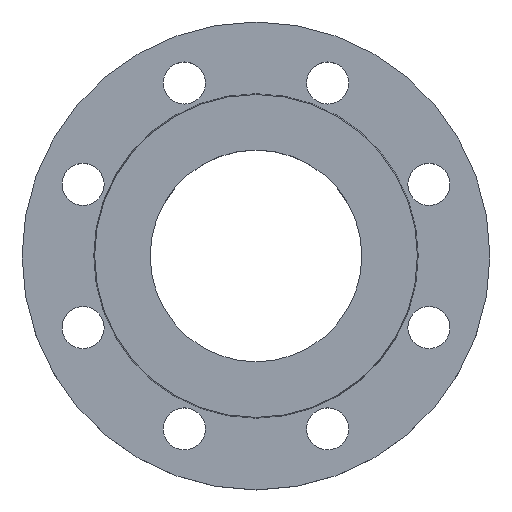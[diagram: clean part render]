
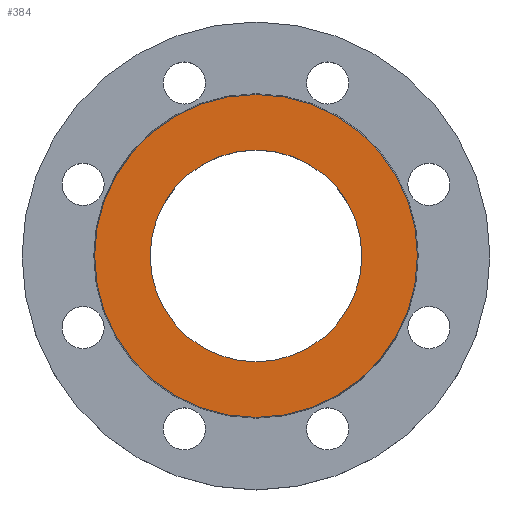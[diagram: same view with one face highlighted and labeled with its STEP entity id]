
A CAD part, top view. The second image highlights one B-rep face of the part: STEP entity #384.
In plain terms, the highlighted planar face has unit normal (0, 0, 1).
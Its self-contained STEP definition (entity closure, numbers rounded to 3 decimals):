
#44 = CIRCLE ( 'NONE', #48, 45.25 ) ;
#48 = AXIS2_PLACEMENT_3D ( 'NONE', #501, #502, #503 ) ;
#82 = EDGE_CURVE ( 'NONE', #662, #668, #172, .T. ) ;
#130 = CARTESIAN_POINT ( 'NONE',  ( -45.25, 0., 0. ) ) ;
#142 = CARTESIAN_POINT ( 'NONE',  ( -69., 0., 0. ) ) ;
#150 = CARTESIAN_POINT ( 'NONE',  ( 69., 0., 0. ) ) ;
#158 = EDGE_CURVE ( 'NONE', #647, #695, #623, .T. ) ;
#168 = CARTESIAN_POINT ( 'NONE',  ( 45.25, 0., 0. ) ) ;
#172 = CIRCLE ( 'NONE', #471, 69. ) ;
#224 = AXIS2_PLACEMENT_3D ( 'NONE', #592, #593, #594 ) ;
#297 = EDGE_CURVE ( 'NONE', #695, #647, #44, .T. ) ;
#331 = DIRECTION ( 'NONE',  ( 0., 0., -1. ) ) ;
#364 = DIRECTION ( 'NONE',  ( -1., 0., 0. ) ) ;
#374 = CARTESIAN_POINT ( 'NONE',  ( 0., 0., 0. ) ) ;
#384 = ADVANCED_FACE ( 'NONE', ( #583, #586 ), #589, .T. ) ;
#432 = AXIS2_PLACEMENT_3D ( 'NONE', #467, #468, #469 ) ;
#446 = EDGE_CURVE ( 'NONE', #668, #662, #585, .T. ) ;
#458 = CARTESIAN_POINT ( 'NONE',  ( 0., 0., 0. ) ) ;
#459 = DIRECTION ( 'NONE',  ( 0., 0., -1. ) ) ;
#460 = DIRECTION ( 'NONE',  ( -1., 0., 0. ) ) ;
#467 = CARTESIAN_POINT ( 'NONE',  ( 0., 0., 0. ) ) ;
#468 = DIRECTION ( 'NONE',  ( 0., 0., -1. ) ) ;
#469 = DIRECTION ( 'NONE',  ( -1., 0., 0. ) ) ;
#471 = AXIS2_PLACEMENT_3D ( 'NONE', #458, #459, #460 ) ;
#501 = CARTESIAN_POINT ( 'NONE',  ( 0., 0., 0. ) ) ;
#502 = DIRECTION ( 'NONE',  ( 0., 0., -1. ) ) ;
#503 = DIRECTION ( 'NONE',  ( -1., 0., 0. ) ) ;
#583 = FACE_BOUND ( 'NONE', #697, .T. ) ;
#584 = AXIS2_PLACEMENT_3D ( 'NONE', #374, #331, #364 ) ;
#585 = CIRCLE ( 'NONE', #584, 69. ) ;
#586 = FACE_OUTER_BOUND ( 'NONE', #873, .T. ) ;
#589 = PLANE ( 'NONE',  #224 ) ;
#592 = CARTESIAN_POINT ( 'NONE',  ( 0., 0., 0. ) ) ;
#593 = DIRECTION ( 'NONE',  ( 0., 0., 1. ) ) ;
#594 = DIRECTION ( 'NONE',  ( 1., 0., 0. ) ) ;
#623 = CIRCLE ( 'NONE', #432, 45.25 ) ;
#647 = VERTEX_POINT ( 'NONE', #168 ) ;
#662 = VERTEX_POINT ( 'NONE', #150 ) ;
#668 = VERTEX_POINT ( 'NONE', #142 ) ;
#695 = VERTEX_POINT ( 'NONE', #130 ) ;
#697 = EDGE_LOOP ( 'NONE', ( #795, #796 ) ) ;
#795 = ORIENTED_EDGE ( 'NONE', *, *, #297, .T. ) ;
#796 = ORIENTED_EDGE ( 'NONE', *, *, #158, .T. ) ;
#797 = ORIENTED_EDGE ( 'NONE', *, *, #446, .F. ) ;
#798 = ORIENTED_EDGE ( 'NONE', *, *, #82, .F. ) ;
#873 = EDGE_LOOP ( 'NONE', ( #797, #798 ) ) ;
